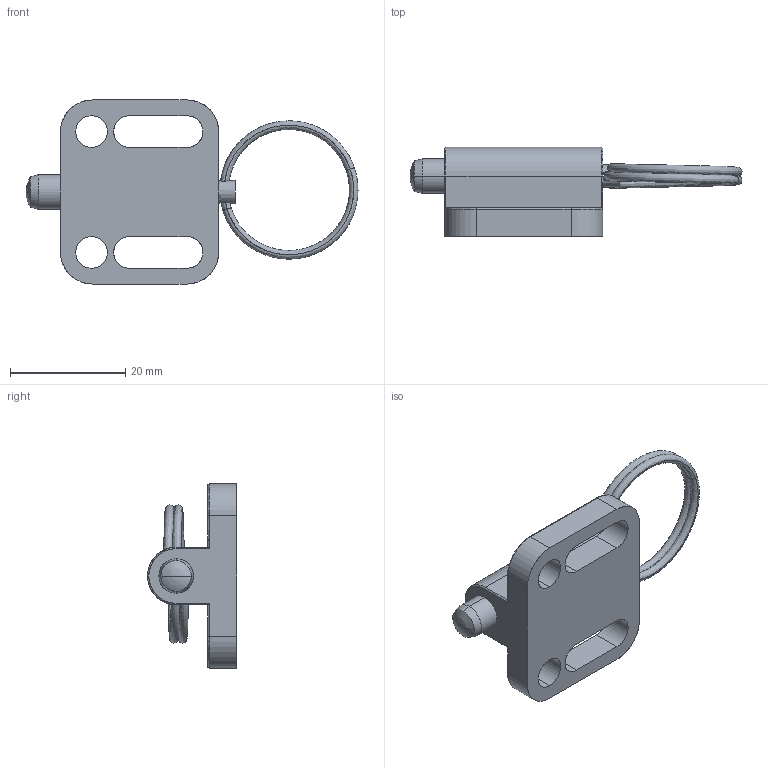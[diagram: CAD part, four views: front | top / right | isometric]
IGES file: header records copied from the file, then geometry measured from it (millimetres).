
Start section: SolidWorks IGES file using analytic representation for surfaces
Global section: file name: C:\HEMSIDA\cad\SLDPRT_2007\gn417\\gn417a_6.igs; native system: SolidWorks 2007; preprocessor: SolidWorks 2007; author: Administrator; date: 070919.152955; units: millimetre
Bounding box: 57.71 x 15.5 x 32 mm (x, y, z)
Surface area: 4766.4 mm2 (no closed solid volume)
Topology: 0 solids, 0 shells, 67 faces, 994 edges, 993 vertices
Faces by surface type: revolution 37, bspline 30
